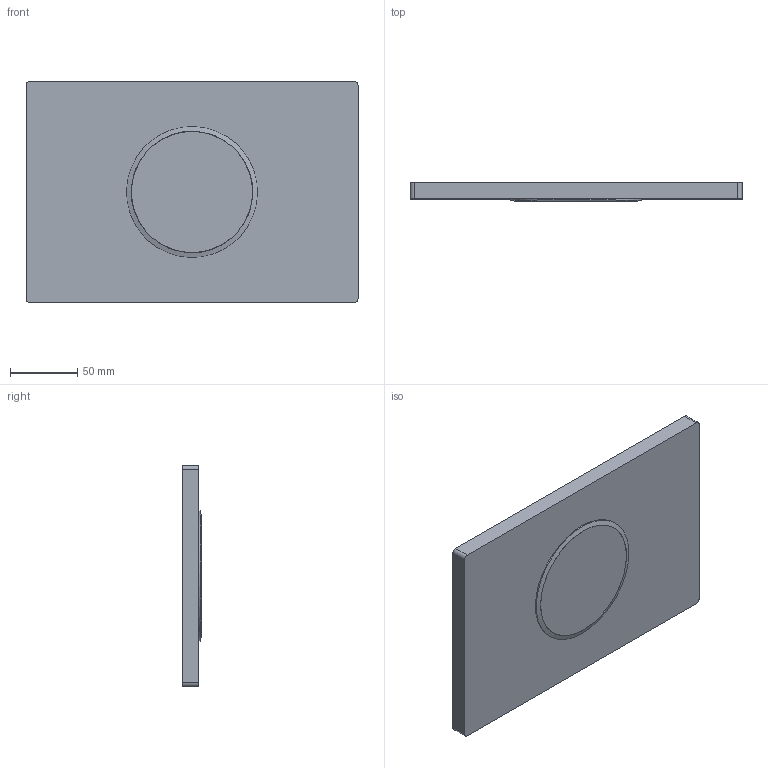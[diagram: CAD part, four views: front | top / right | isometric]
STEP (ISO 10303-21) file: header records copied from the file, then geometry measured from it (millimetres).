
FILE_DESCRIPTION(/* description */ (''),/* implementation_level */ '2;1');
FILE_NAME(/* name */ 'C:\Planerdaten\Export PLA\115.906.SN.1\stp\115907.stp',/* time_stamp */ '2021-10-08T09:44:26+02:00',/* author */ ('JANAN'),/* organization */ (''),/* preprocessor_version */ 'ST-DEVELOPER v16.13',/* originating_system */ 'Autodesk Inventor 2018',/* authorisation */ '');
FILE_SCHEMA (('AUTOMOTIVE_DESIGN { 1 0 10303 214 3 1 1 }'));
Length unit declared in the file: millimetre
Products named in the file (1): tmpA5FE.tmp
Bounding box: 246 x 13.93 x 164 mm (x, y, z)
Volume: 446275.8 mm3; surface area: 100227.5 mm2
Topology: 2 solids, 2 shells, 22 faces, 45 edges, 30 vertices
Faces by surface type: plane 11, cylinder 10, cone 1
Full cylindrical faces by diameter (mm): 89.8 x1, 90 x2, 94.5 x1, 94.9 x1, 97 x1
Entity records: 607 total; most frequent: DIRECTION 102, CARTESIAN_POINT 87, ORIENTED_EDGE 72, AXIS2_PLACEMENT_3D 43, EDGE_CURVE 36, EDGE_LOOP 34, VERTEX_POINT 28, STYLED_ITEM 24
